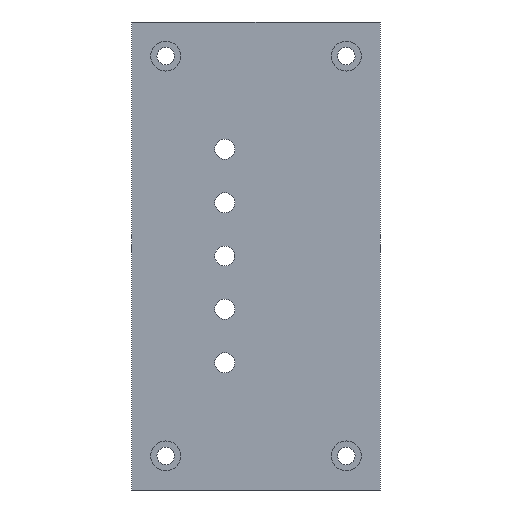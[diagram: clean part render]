
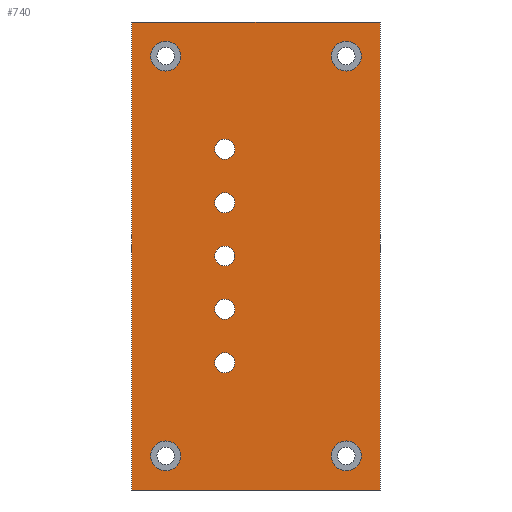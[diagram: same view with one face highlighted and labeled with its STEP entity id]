
A CAD part, left-side view. The second image highlights one B-rep face of the part: STEP entity #740.
In plain terms, the highlighted planar face has unit normal (-1, 0, 0).
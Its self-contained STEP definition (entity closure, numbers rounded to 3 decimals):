
#105=FACE_BOUND('',#207,.T.);
#106=FACE_BOUND('',#208,.T.);
#107=FACE_BOUND('',#209,.T.);
#108=FACE_BOUND('',#210,.T.);
#109=FACE_BOUND('',#211,.T.);
#110=FACE_BOUND('',#212,.T.);
#111=FACE_BOUND('',#213,.T.);
#112=FACE_BOUND('',#214,.T.);
#113=FACE_BOUND('',#215,.T.);
#136=PLANE('',#825);
#163=FACE_OUTER_BOUND('',#206,.T.);
#206=EDGE_LOOP('',(#575,#576,#577,#578));
#207=EDGE_LOOP('',(#579));
#208=EDGE_LOOP('',(#580));
#209=EDGE_LOOP('',(#581));
#210=EDGE_LOOP('',(#582));
#211=EDGE_LOOP('',(#583));
#212=EDGE_LOOP('',(#584));
#213=EDGE_LOOP('',(#585));
#214=EDGE_LOOP('',(#586));
#215=EDGE_LOOP('',(#587));
#279=LINE('',#1186,#312);
#282=LINE('',#1192,#315);
#283=LINE('',#1194,#316);
#284=LINE('',#1195,#317);
#312=VECTOR('',#963,10.);
#315=VECTOR('',#968,10.);
#316=VECTOR('',#969,10.);
#317=VECTOR('',#970,10.);
#335=CIRCLE('',#798,1.4);
#337=CIRCLE('',#801,1.4);
#339=CIRCLE('',#804,1.4);
#341=CIRCLE('',#807,1.4);
#343=CIRCLE('',#810,1.4);
#346=CIRCLE('',#814,2.1);
#348=CIRCLE('',#817,2.1);
#350=CIRCLE('',#820,2.1);
#352=CIRCLE('',#823,2.1);
#390=VERTEX_POINT('',#1128);
#392=VERTEX_POINT('',#1134);
#394=VERTEX_POINT('',#1140);
#396=VERTEX_POINT('',#1146);
#398=VERTEX_POINT('',#1152);
#401=VERTEX_POINT('',#1160);
#403=VERTEX_POINT('',#1166);
#405=VERTEX_POINT('',#1172);
#407=VERTEX_POINT('',#1178);
#409=VERTEX_POINT('',#1183);
#410=VERTEX_POINT('',#1185);
#412=VERTEX_POINT('',#1191);
#413=VERTEX_POINT('',#1193);
#448=EDGE_CURVE('',#390,#390,#335,.T.);
#451=EDGE_CURVE('',#392,#392,#337,.T.);
#454=EDGE_CURVE('',#394,#394,#339,.T.);
#457=EDGE_CURVE('',#396,#396,#341,.T.);
#460=EDGE_CURVE('',#398,#398,#343,.T.);
#465=EDGE_CURVE('',#401,#401,#346,.T.);
#468=EDGE_CURVE('',#403,#403,#348,.T.);
#471=EDGE_CURVE('',#405,#405,#350,.T.);
#474=EDGE_CURVE('',#407,#407,#352,.T.);
#476=EDGE_CURVE('',#409,#410,#279,.T.);
#479=EDGE_CURVE('',#412,#409,#282,.T.);
#480=EDGE_CURVE('',#413,#412,#283,.T.);
#481=EDGE_CURVE('',#410,#413,#284,.T.);
#575=ORIENTED_EDGE('',*,*,#479,.F.);
#576=ORIENTED_EDGE('',*,*,#480,.F.);
#577=ORIENTED_EDGE('',*,*,#481,.F.);
#578=ORIENTED_EDGE('',*,*,#476,.F.);
#579=ORIENTED_EDGE('',*,*,#448,.T.);
#580=ORIENTED_EDGE('',*,*,#451,.T.);
#581=ORIENTED_EDGE('',*,*,#454,.T.);
#582=ORIENTED_EDGE('',*,*,#457,.T.);
#583=ORIENTED_EDGE('',*,*,#460,.T.);
#584=ORIENTED_EDGE('',*,*,#465,.T.);
#585=ORIENTED_EDGE('',*,*,#468,.T.);
#586=ORIENTED_EDGE('',*,*,#471,.T.);
#587=ORIENTED_EDGE('',*,*,#474,.T.);
#740=ADVANCED_FACE('',(#163,#105,#106,#107,#108,#109,#110,#111,#112,#113),
#136,.T.);
#798=AXIS2_PLACEMENT_3D('',#1129,#899,#900);
#801=AXIS2_PLACEMENT_3D('',#1135,#906,#907);
#804=AXIS2_PLACEMENT_3D('',#1141,#913,#914);
#807=AXIS2_PLACEMENT_3D('',#1147,#920,#921);
#810=AXIS2_PLACEMENT_3D('',#1153,#927,#928);
#814=AXIS2_PLACEMENT_3D('',#1162,#937,#938);
#817=AXIS2_PLACEMENT_3D('',#1168,#944,#945);
#820=AXIS2_PLACEMENT_3D('',#1174,#951,#952);
#823=AXIS2_PLACEMENT_3D('',#1180,#958,#959);
#825=AXIS2_PLACEMENT_3D('',#1190,#966,#967);
#899=DIRECTION('center_axis',(1.,0.,0.));
#900=DIRECTION('ref_axis',(0.,0.,1.));
#906=DIRECTION('center_axis',(1.,0.,0.));
#907=DIRECTION('ref_axis',(0.,0.,1.));
#913=DIRECTION('center_axis',(1.,0.,0.));
#914=DIRECTION('ref_axis',(0.,0.,1.));
#920=DIRECTION('center_axis',(1.,0.,0.));
#921=DIRECTION('ref_axis',(0.,0.,1.));
#927=DIRECTION('center_axis',(1.,0.,0.));
#928=DIRECTION('ref_axis',(0.,0.,1.));
#937=DIRECTION('center_axis',(1.,0.,0.));
#938=DIRECTION('ref_axis',(0.,0.,-1.));
#944=DIRECTION('center_axis',(1.,0.,0.));
#945=DIRECTION('ref_axis',(0.,0.,-1.));
#951=DIRECTION('center_axis',(1.,0.,0.));
#952=DIRECTION('ref_axis',(0.,0.,-1.));
#958=DIRECTION('center_axis',(1.,0.,0.));
#959=DIRECTION('ref_axis',(0.,0.,-1.));
#963=DIRECTION('',(0.,1.,0.));
#966=DIRECTION('center_axis',(-1.,0.,0.));
#967=DIRECTION('ref_axis',(0.,-1.,0.));
#968=DIRECTION('',(0.,0.,-1.));
#969=DIRECTION('',(0.,-1.,0.));
#970=DIRECTION('',(0.,0.,1.));
#1128=CARTESIAN_POINT('',(0.,21.9,6.1));
#1129=CARTESIAN_POINT('Origin',(0.,21.9,7.5));
#1134=CARTESIAN_POINT('',(0.,21.9,-8.9));
#1135=CARTESIAN_POINT('Origin',(0.,21.9,-7.5));
#1140=CARTESIAN_POINT('',(0.,21.9,-16.4));
#1141=CARTESIAN_POINT('Origin',(0.,21.9,-15.));
#1146=CARTESIAN_POINT('',(0.,21.9,-1.4));
#1147=CARTESIAN_POINT('Origin',(0.,21.9,0.));
#1152=CARTESIAN_POINT('',(0.,21.9,13.6));
#1153=CARTESIAN_POINT('Origin',(0.,21.9,15.));
#1160=CARTESIAN_POINT('',(0.,30.2,-26.));
#1162=CARTESIAN_POINT('Origin',(0.,30.2,
-28.1));
#1166=CARTESIAN_POINT('',(0.,4.8,-26.));
#1168=CARTESIAN_POINT('Origin',(0.,4.8,
-28.1));
#1172=CARTESIAN_POINT('',(0.,4.8,30.2));
#1174=CARTESIAN_POINT('Origin',(0.,4.8,
28.1));
#1178=CARTESIAN_POINT('',(0.,30.2,30.2));
#1180=CARTESIAN_POINT('Origin',(0.,30.2,
28.1));
#1183=CARTESIAN_POINT('',(0.,0.,-32.9));
#1185=CARTESIAN_POINT('',(0.,35.,-32.9));
#1186=CARTESIAN_POINT('',(0.,35.,-32.9));
#1190=CARTESIAN_POINT('Origin',(0.,35.,0.));
#1191=CARTESIAN_POINT('',(0.,0.,32.9));
#1192=CARTESIAN_POINT('',(0.,0.,0.));
#1193=CARTESIAN_POINT('',(0.,35.,32.9));
#1194=CARTESIAN_POINT('',(0.,35.,32.9));
#1195=CARTESIAN_POINT('',(0.,35.,0.));
